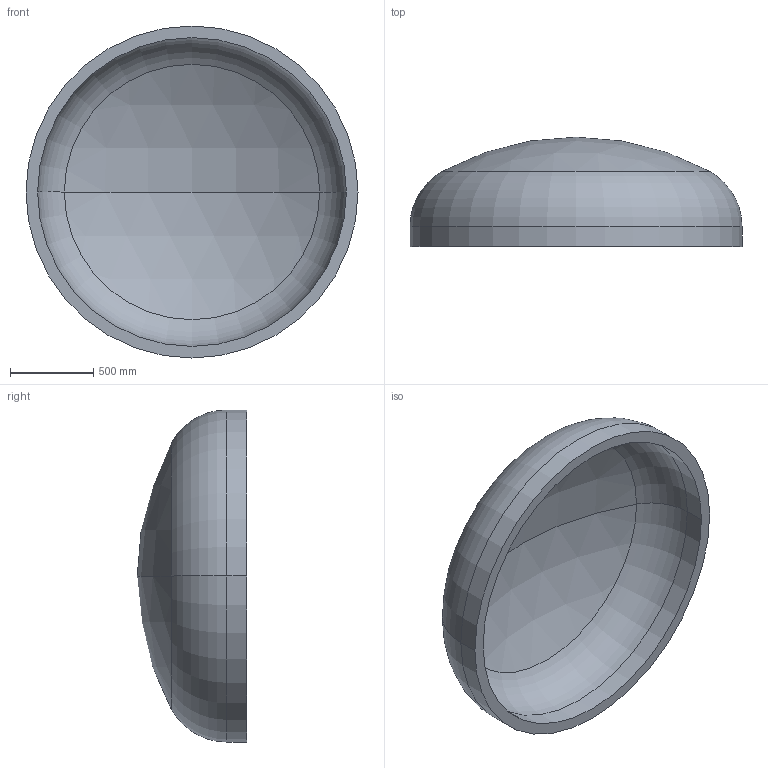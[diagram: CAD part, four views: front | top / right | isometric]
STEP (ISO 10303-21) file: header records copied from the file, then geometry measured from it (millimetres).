
FILE_DESCRIPTION (( 'STEP AP203' ), '1' );
FILE_NAME ('DIN 28013 Korbbogenform_-_Boden DIN 28013 - 2000 x 120 - I - s=70.step', '2016-07-01T14:02:00', ( '' ), ( '' ), 'SwSTEP 2.0', 'SolidWorks 2013', '' );
FILE_SCHEMA (( 'CONFIG_CONTROL_DESIGN' ));
Length unit declared in the file: millimetre
Products named in the file (1): DIN 28013 Korbbogenform_-_Boden DIN 28013 - 2000 x 120 - I - s=70
Bounding box: 2000 x 658.76 x 2000 mm (x, y, z)
Volume: 342328888.1 mm3; surface area: 10215514.2 mm2
Topology: 1 solids, 1 shells, 13 faces, 24 edges, 14 vertices
Faces by surface type: torus 4, cylinder 4, sphere 4, plane 1
Entity records: 407 total; most frequent: DIRECTION 72, CARTESIAN_POINT 52, ORIENTED_EDGE 48, AXIS2_PLACEMENT_3D 34, EDGE_CURVE 24, CIRCLE 20, VERTEX_POINT 14, EDGE_LOOP 14
